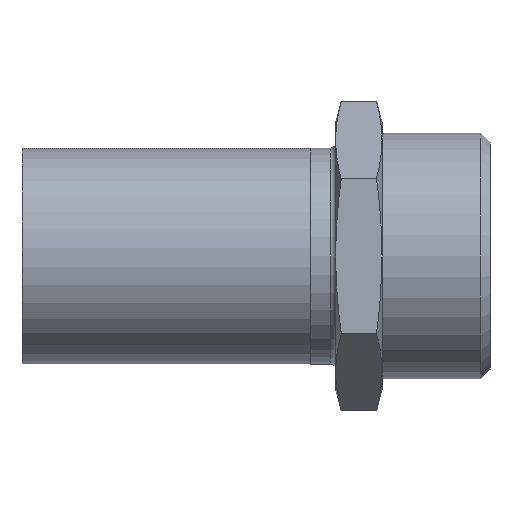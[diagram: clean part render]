
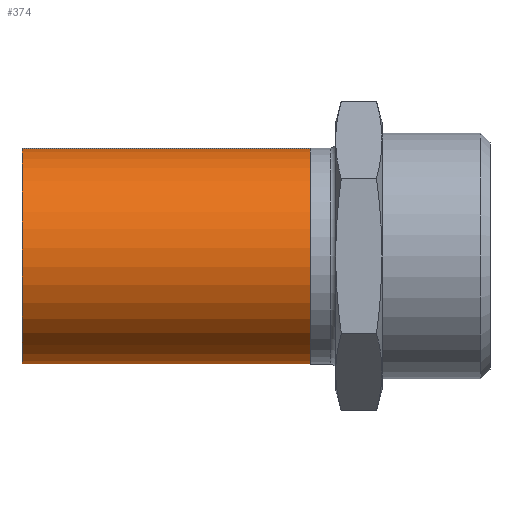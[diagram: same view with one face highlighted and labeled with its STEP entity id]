
A CAD part, front view. The second image highlights one B-rep face of the part: STEP entity #374.
In plain terms, the highlighted cylindrical face has radius 21 mm (diameter 42 mm), a partial arc.
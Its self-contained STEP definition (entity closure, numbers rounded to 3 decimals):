
#59 = DIRECTION ( 'NONE',  ( -1., 0., 0. ) ) ;
#87 = ORIENTED_EDGE ( 'NONE', *, *, #147, .T. ) ;
#133 = DIRECTION ( 'NONE',  ( 0., 0., -1. ) ) ;
#147 = EDGE_CURVE ( 'NONE', #682, #910, #556, .T. ) ;
#179 = ORIENTED_EDGE ( 'NONE', *, *, #1561, .F. ) ;
#233 = VECTOR ( 'NONE', #133, 1000. ) ;
#264 = VERTEX_POINT ( 'NONE', #507 ) ;
#305 = EDGE_CURVE ( 'NONE', #910, #1281, #1542, .T. ) ;
#368 = CARTESIAN_POINT ( 'NONE',  ( 21., 0., 56. ) ) ;
#374 = ADVANCED_FACE ( 'NONE', ( #1094 ), #1021, .T. ) ;
#402 = ORIENTED_EDGE ( 'NONE', *, *, #305, .T. ) ;
#492 = ORIENTED_EDGE ( 'NONE', *, *, #1143, .F. ) ;
#502 = DIRECTION ( 'NONE',  ( 0., 0., -1. ) ) ;
#505 = CARTESIAN_POINT ( 'NONE',  ( 0., 0., 56. ) ) ;
#507 = CARTESIAN_POINT ( 'NONE',  ( 21., 0., 56. ) ) ;
#556 = LINE ( 'NONE', #991, #233 ) ;
#669 = DIRECTION ( 'NONE',  ( 1., 0., 0. ) ) ;
#682 = VERTEX_POINT ( 'NONE', #834 ) ;
#762 = DIRECTION ( 'NONE',  ( 1., 0., 0. ) ) ;
#788 = CARTESIAN_POINT ( 'NONE',  ( 0., 0., 56. ) ) ;
#793 = EDGE_LOOP ( 'NONE', ( #179, #492, #87, #402 ) ) ;
#796 = DIRECTION ( 'NONE',  ( 0., 0., -1. ) ) ;
#834 = CARTESIAN_POINT ( 'NONE',  ( -21., 0., 56. ) ) ;
#874 = CARTESIAN_POINT ( 'NONE',  ( -21., 0., 0. ) ) ;
#910 = VERTEX_POINT ( 'NONE', #874 ) ;
#991 = CARTESIAN_POINT ( 'NONE',  ( -21., 0., 56. ) ) ;
#1021 = CYLINDRICAL_SURFACE ( 'NONE', #1074, 21. ) ;
#1037 = CARTESIAN_POINT ( 'NONE',  ( 0., 0., 0. ) ) ;
#1074 = AXIS2_PLACEMENT_3D ( 'NONE', #788, #796, #59 ) ;
#1094 = FACE_OUTER_BOUND ( 'NONE', #793, .T. ) ;
#1143 = EDGE_CURVE ( 'NONE', #682, #264, #1515, .T. ) ;
#1155 = DIRECTION ( 'NONE',  ( 0., 0., 1. ) ) ;
#1167 = LINE ( 'NONE', #368, #1216 ) ;
#1216 = VECTOR ( 'NONE', #502, 1000. ) ;
#1238 = AXIS2_PLACEMENT_3D ( 'NONE', #505, #1243, #762 ) ;
#1243 = DIRECTION ( 'NONE',  ( 0., 0., 1. ) ) ;
#1281 = VERTEX_POINT ( 'NONE', #1507 ) ;
#1470 = AXIS2_PLACEMENT_3D ( 'NONE', #1037, #1155, #669 ) ;
#1507 = CARTESIAN_POINT ( 'NONE',  ( 21., 0., 0. ) ) ;
#1515 = CIRCLE ( 'NONE', #1238, 21. ) ;
#1542 = CIRCLE ( 'NONE', #1470, 21. ) ;
#1561 = EDGE_CURVE ( 'NONE', #264, #1281, #1167, .T. ) ;
